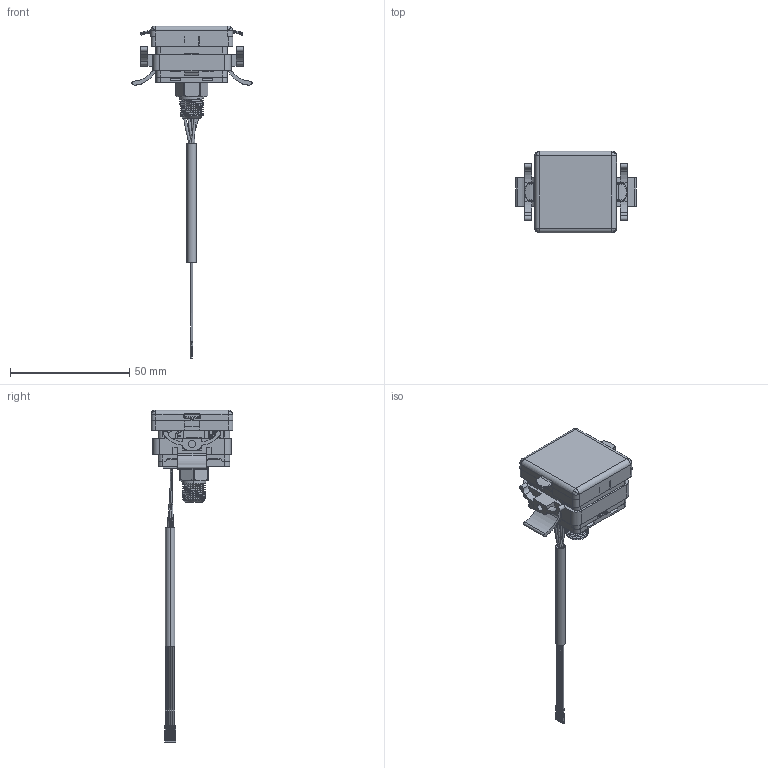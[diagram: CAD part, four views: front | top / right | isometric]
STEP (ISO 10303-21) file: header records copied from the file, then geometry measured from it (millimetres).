
FILE_DESCRIPTION((''),'2;1');
FILE_NAME('KP48E_PA-D','2024-12-12T',('tommy'),(''),'CREO PARAMETRIC BY PTC INC, 2014500','CREO PARAMETRIC BY PTC INC, 2014500','');
FILE_SCHEMA(('CONFIG_CONTROL_DESIGN'));
Products named in the file (1): KP48E_PA-D
Bounding box: 50.4 x 34.4 x 139.37 mm (x, y, z)
Volume: 13483.4 mm3; surface area: 22385.1 mm2
Topology: 1 solids, 1 shells, 3121 faces, 9097 edges, 5861 vertices
Faces by surface type: plane 1876, cylinder 647, bspline 279, extrusion 210, cone 109
Entity records: 149118 total; most frequent: CARTESIAN_POINT 69356, ORIENTED_EDGE 18128, DIRECTION 14296, EDGE_CURVE 9064, VECTOR 6194, LINE 5984, VERTEX_POINT 5861, AXIS2_PLACEMENT_3D 4051
